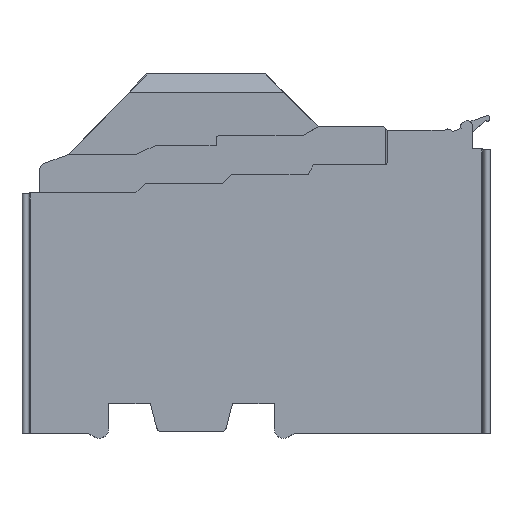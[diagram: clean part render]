
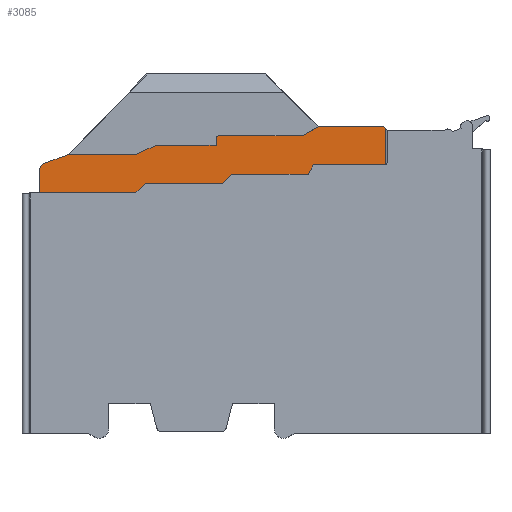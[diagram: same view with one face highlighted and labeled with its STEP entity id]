
A CAD part, top view. The second image highlights one B-rep face of the part: STEP entity #3085.
In plain terms, the highlighted planar face has unit normal (0, 0, 1).
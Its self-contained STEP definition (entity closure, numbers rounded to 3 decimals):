
#97=CIRCLE('',#3301,1.6);
#99=CIRCLE('',#3305,0.5);
#215=FACE_OUTER_BOUND('',#380,.T.);
#380=EDGE_LOOP('',(#2133,#2134,#2135,#2136,#2137,#2138,#2139,#2140,#2141,
#2142,#2143,#2144,#2145,#2146,#2147,#2148,#2149,#2150,#2151,#2152,#2153,
#2154,#2155));
#519=LINE('',#4438,#880);
#558=LINE('',#4580,#919);
#563=LINE('',#4588,#924);
#564=LINE('',#4590,#925);
#565=LINE('',#4592,#926);
#566=LINE('',#4594,#927);
#567=LINE('',#4596,#928);
#568=LINE('',#4598,#929);
#569=LINE('',#4600,#930);
#570=LINE('',#4602,#931);
#571=LINE('',#4604,#932);
#572=LINE('',#4606,#933);
#573=LINE('',#4607,#934);
#574=LINE('',#4609,#935);
#575=LINE('',#4611,#936);
#576=LINE('',#4613,#937);
#577=LINE('',#4615,#938);
#578=LINE('',#4619,#939);
#579=LINE('',#4621,#940);
#580=LINE('',#4623,#941);
#581=LINE('',#4624,#942);
#880=VECTOR('',#3524,10.);
#919=VECTOR('',#3683,10.);
#924=VECTOR('',#3690,10.);
#925=VECTOR('',#3691,10.);
#926=VECTOR('',#3692,10.);
#927=VECTOR('',#3693,10.);
#928=VECTOR('',#3694,10.);
#929=VECTOR('',#3695,10.);
#930=VECTOR('',#3696,10.);
#931=VECTOR('',#3697,10.);
#932=VECTOR('',#3698,10.);
#933=VECTOR('',#3699,10.);
#934=VECTOR('',#3700,10.);
#935=VECTOR('',#3701,10.);
#936=VECTOR('',#3702,10.);
#937=VECTOR('',#3703,10.);
#938=VECTOR('',#3704,10.);
#939=VECTOR('',#3707,10.);
#940=VECTOR('',#3708,10.);
#941=VECTOR('',#3709,10.);
#942=VECTOR('',#3710,10.);
#1241=VERTEX_POINT('',#4435);
#1242=VERTEX_POINT('',#4437);
#1281=VERTEX_POINT('',#4570);
#1282=VERTEX_POINT('',#4571);
#1285=VERTEX_POINT('',#4579);
#1287=VERTEX_POINT('',#4587);
#1288=VERTEX_POINT('',#4589);
#1289=VERTEX_POINT('',#4591);
#1290=VERTEX_POINT('',#4593);
#1291=VERTEX_POINT('',#4595);
#1292=VERTEX_POINT('',#4597);
#1293=VERTEX_POINT('',#4599);
#1294=VERTEX_POINT('',#4601);
#1295=VERTEX_POINT('',#4603);
#1296=VERTEX_POINT('',#4605);
#1297=VERTEX_POINT('',#4608);
#1298=VERTEX_POINT('',#4610);
#1299=VERTEX_POINT('',#4612);
#1300=VERTEX_POINT('',#4614);
#1301=VERTEX_POINT('',#4616);
#1302=VERTEX_POINT('',#4618);
#1303=VERTEX_POINT('',#4620);
#1304=VERTEX_POINT('',#4622);
#1543=EDGE_CURVE('',#1242,#1241,#519,.F.);
#1609=EDGE_CURVE('',#1281,#1282,#97,.T.);
#1613=EDGE_CURVE('',#1285,#1282,#558,.T.);
#1618=EDGE_CURVE('',#1281,#1287,#563,.T.);
#1619=EDGE_CURVE('',#1288,#1287,#564,.T.);
#1620=EDGE_CURVE('',#1288,#1289,#565,.T.);
#1621=EDGE_CURVE('',#1289,#1290,#566,.T.);
#1622=EDGE_CURVE('',#1291,#1290,#567,.T.);
#1623=EDGE_CURVE('',#1291,#1292,#568,.T.);
#1624=EDGE_CURVE('',#1292,#1293,#569,.T.);
#1625=EDGE_CURVE('',#1294,#1293,#570,.T.);
#1626=EDGE_CURVE('',#1294,#1295,#571,.T.);
#1627=EDGE_CURVE('',#1295,#1296,#572,.T.);
#1628=EDGE_CURVE('',#1242,#1296,#573,.T.);
#1629=EDGE_CURVE('',#1241,#1297,#574,.T.);
#1630=EDGE_CURVE('',#1297,#1298,#575,.T.);
#1631=EDGE_CURVE('',#1298,#1299,#576,.T.);
#1632=EDGE_CURVE('',#1299,#1300,#577,.T.);
#1633=EDGE_CURVE('',#1301,#1300,#99,.T.);
#1634=EDGE_CURVE('',#1301,#1302,#578,.T.);
#1635=EDGE_CURVE('',#1302,#1303,#579,.T.);
#1636=EDGE_CURVE('',#1303,#1304,#580,.T.);
#1637=EDGE_CURVE('',#1304,#1285,#581,.T.);
#2133=ORIENTED_EDGE('',*,*,#1609,.F.);
#2134=ORIENTED_EDGE('',*,*,#1618,.T.);
#2135=ORIENTED_EDGE('',*,*,#1619,.F.);
#2136=ORIENTED_EDGE('',*,*,#1620,.T.);
#2137=ORIENTED_EDGE('',*,*,#1621,.T.);
#2138=ORIENTED_EDGE('',*,*,#1622,.F.);
#2139=ORIENTED_EDGE('',*,*,#1623,.T.);
#2140=ORIENTED_EDGE('',*,*,#1624,.T.);
#2141=ORIENTED_EDGE('',*,*,#1625,.F.);
#2142=ORIENTED_EDGE('',*,*,#1626,.T.);
#2143=ORIENTED_EDGE('',*,*,#1627,.T.);
#2144=ORIENTED_EDGE('',*,*,#1628,.F.);
#2145=ORIENTED_EDGE('',*,*,#1543,.T.);
#2146=ORIENTED_EDGE('',*,*,#1629,.T.);
#2147=ORIENTED_EDGE('',*,*,#1630,.T.);
#2148=ORIENTED_EDGE('',*,*,#1631,.T.);
#2149=ORIENTED_EDGE('',*,*,#1632,.T.);
#2150=ORIENTED_EDGE('',*,*,#1633,.F.);
#2151=ORIENTED_EDGE('',*,*,#1634,.T.);
#2152=ORIENTED_EDGE('',*,*,#1635,.T.);
#2153=ORIENTED_EDGE('',*,*,#1636,.T.);
#2154=ORIENTED_EDGE('',*,*,#1637,.T.);
#2155=ORIENTED_EDGE('',*,*,#1613,.T.);
#2957=PLANE('',#3304);
#3085=ADVANCED_FACE('',(#215),#2957,.T.);
#3301=AXIS2_PLACEMENT_3D('',#4572,#3675,#3676);
#3304=AXIS2_PLACEMENT_3D('',#4586,#3688,#3689);
#3305=AXIS2_PLACEMENT_3D('',#4617,#3705,#3706);
#3524=DIRECTION('',(0.,-1.,0.));
#3675=DIRECTION('center_axis',(0.,0.,-1.));
#3676=DIRECTION('ref_axis',(-0.819,0.574,0.));
#3683=DIRECTION('',(-0.94,-0.342,0.));
#3688=DIRECTION('center_axis',(0.,0.,1.));
#3689=DIRECTION('ref_axis',(1.,0.,0.));
#3690=DIRECTION('',(0.,-1.,0.));
#3691=DIRECTION('',(-1.,0.,0.));
#3692=DIRECTION('',(0.707,0.707,0.));
#3693=DIRECTION('',(1.,0.,0.));
#3694=DIRECTION('',(-1.,0.,0.));
#3695=DIRECTION('',(0.707,0.707,0.));
#3696=DIRECTION('',(1.,0.,0.));
#3697=DIRECTION('',(-1.,0.,0.));
#3698=DIRECTION('',(0.5,0.866,0.));
#3699=DIRECTION('',(1.,0.,0.));
#3700=DIRECTION('',(-1.,0.,0.));
#3701=DIRECTION('',(-0.707,0.707,0.));
#3702=DIRECTION('',(-1.,0.,0.));
#3703=DIRECTION('',(-0.866,-0.5,0.));
#3704=DIRECTION('',(-1.,0.,0.));
#3705=DIRECTION('center_axis',(0.,0.,-1.));
#3706=DIRECTION('ref_axis',(-0.707,0.707,0.));
#3707=DIRECTION('',(0.,-1.,0.));
#3708=DIRECTION('',(-1.,0.,0.));
#3709=DIRECTION('',(-0.91,-0.414,0.));
#3710=DIRECTION('',(-1.,0.,0.));
#4435=CARTESIAN_POINT('',(41.556,58.694,11.92));
#4437=CARTESIAN_POINT('',(41.556,51.,11.92));
#4438=CARTESIAN_POINT('',(41.556,54.375,11.92));
#4570=CARTESIAN_POINT('',(-32.4,49.859,11.92));
#4571=CARTESIAN_POINT('',(-31.347,51.363,11.92));
#4572=CARTESIAN_POINT('Origin',(-30.8,49.859,11.92));
#4579=CARTESIAN_POINT('',(-26.3,53.2,11.92));
#4580=CARTESIAN_POINT('',(-32.4,50.98,11.92));
#4586=CARTESIAN_POINT('Origin',(4.75,57.75,11.92));
#4587=CARTESIAN_POINT('',(-32.4,45.,11.92));
#4588=CARTESIAN_POINT('',(-32.4,45.,11.92));
#4589=CARTESIAN_POINT('',(-11.855,45.,11.92));
#4590=CARTESIAN_POINT('',(-17.725,45.,11.92));
#4591=CARTESIAN_POINT('',(-9.855,47.,11.92));
#4592=CARTESIAN_POINT('',(-9.855,47.,11.92));
#4593=CARTESIAN_POINT('',(-9.85,47.,11.92));
#4594=CARTESIAN_POINT('',(6.545,47.,11.92));
#4595=CARTESIAN_POINT('',(6.545,47.,11.92));
#4596=CARTESIAN_POINT('',(-2.55,47.,11.92));
#4597=CARTESIAN_POINT('',(8.545,49.,11.92));
#4598=CARTESIAN_POINT('',(8.545,49.,11.92));
#4599=CARTESIAN_POINT('',(8.55,49.,11.92));
#4600=CARTESIAN_POINT('',(24.945,49.,11.92));
#4601=CARTESIAN_POINT('',(24.945,49.,11.92));
#4602=CARTESIAN_POINT('',(6.65,49.,11.92));
#4603=CARTESIAN_POINT('',(26.1,51.,11.92));
#4604=CARTESIAN_POINT('',(26.1,51.,11.92));
#4605=CARTESIAN_POINT('',(26.105,51.,11.92));
#4606=CARTESIAN_POINT('',(41.9,51.,11.92));
#4607=CARTESIAN_POINT('',(23.1,51.,11.92));
#4608=CARTESIAN_POINT('',(41.05,59.2,11.92));
#4609=CARTESIAN_POINT('',(41.05,59.2,11.92));
#4610=CARTESIAN_POINT('',(27.15,59.2,11.92));
#4611=CARTESIAN_POINT('',(27.15,59.2,11.92));
#4612=CARTESIAN_POINT('',(23.686,57.2,11.92));
#4613=CARTESIAN_POINT('',(18.436,54.169,11.92));
#4614=CARTESIAN_POINT('',(5.775,57.2,11.92));
#4615=CARTESIAN_POINT('',(14.218,57.2,11.92));
#4616=CARTESIAN_POINT('',(5.275,56.7,11.92));
#4617=CARTESIAN_POINT('Origin',(5.775,56.7,11.92));
#4618=CARTESIAN_POINT('',(5.275,55.2,11.92));
#4619=CARTESIAN_POINT('',(5.275,57.475,11.92));
#4620=CARTESIAN_POINT('',(-7.525,55.2,11.92));
#4621=CARTESIAN_POINT('',(5.013,55.2,11.92));
#4622=CARTESIAN_POINT('',(-11.925,53.2,11.92));
#4623=CARTESIAN_POINT('',(-1.958,57.73,11.92));
#4624=CARTESIAN_POINT('',(-3.587,53.2,11.92));
